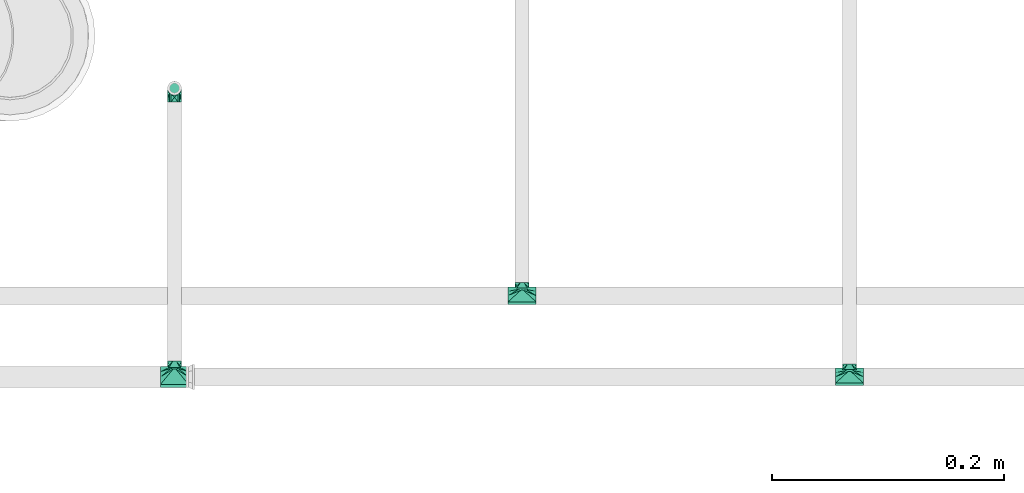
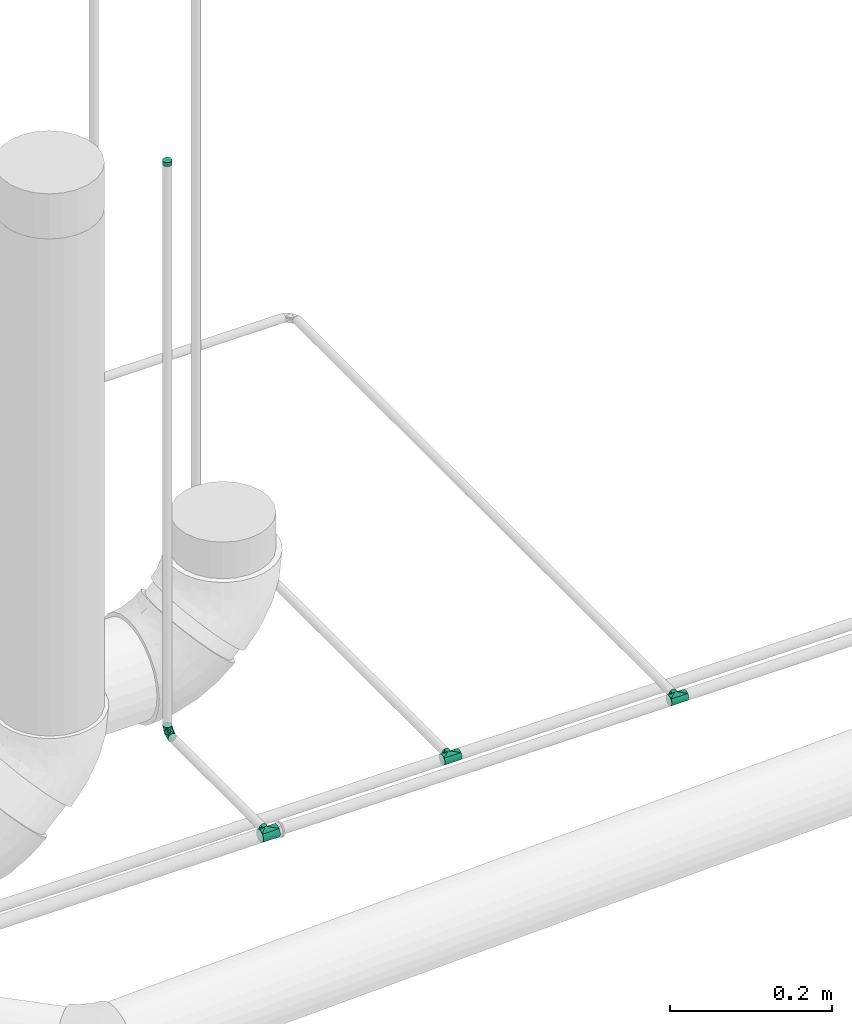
# One storey, part 86 of 156: 5 flow fittings.
"""IFC2X3 building model written with IfcOpenShell, lengths in millimetres."""

from ifc_helpers import new_model, entity, si_unit, converted_unit, derived_unit, direction, frame, origin_with_axes, place, context, subcontext, project, spatial, open_shell, surface_model, source, transform, mapped, type_object, element, save


model = new_model("IFC2X3")

# Units and contexts
model_context = context("Model", 3, precision=0.01, world=frame((0.0, 4.29681676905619e-09, 0.0)), true_north=direction((4.01073788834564e-13, 1.0)))
plan_context = context("Plan", 3, precision=0.01, world=frame((0.0, 4.29681676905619e-09, 0.0)), true_north=direction((4.01073788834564e-13, 1.0)))
body_context = subcontext(model_context, "Body", "Model", "MODEL_VIEW")
ifc_project = project(units=[converted_unit("PLANEANGLEUNIT", "DEGREE", entity("IfcPositiveLengthMeasure", 0.0174532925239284), si_unit("PLANEANGLEUNIT", "RADIAN"), dimensions=[0, 0, 0, 0, 0, 0, 0]), si_unit("AREAUNIT", "SQUARE_METRE"), si_unit("LENGTHUNIT", "METRE", prefix="MILLI"), si_unit("MASSUNIT", "GRAM", prefix="KILO"), si_unit("POWERUNIT", "WATT"), si_unit("PRESSUREUNIT", "PASCAL", prefix="KILO"), si_unit("FORCEUNIT", "NEWTON", prefix="KILO"), si_unit("ELECTRICVOLTAGEUNIT", "VOLT"), si_unit("ELECTRICCURRENTUNIT", "AMPERE"), si_unit("THERMODYNAMICTEMPERATUREUNIT", "DEGREE_CELSIUS"), si_unit("TIMEUNIT", "SECOND"), si_unit("VOLUMEUNIT", "CUBIC_METRE"), derived_unit("LINEARVELOCITYUNIT", [(si_unit("LENGTHUNIT", "METRE"), 1), (si_unit("TIMEUNIT", "SECOND"), -1)]), derived_unit("VOLUMETRICFLOWRATEUNIT", [(si_unit("VOLUMEUNIT", "CUBIC_METRE"), 1), (si_unit("TIMEUNIT", "SECOND"), -1)]), derived_unit("THERMALTRANSMITTANCEUNIT", [(si_unit("POWERUNIT", "WATT"), 1), (si_unit("THERMODYNAMICTEMPERATUREUNIT", "KELVIN"), -1), (si_unit("AREAUNIT", "SQUARE_METRE"), -1)]), derived_unit("SOUNDPRESSUREUNIT", [(si_unit("PRESSUREUNIT", "PASCAL"), 1)])], contexts=[model_context, plan_context])

# Site, building, storey
site_placement = place(None, frame((0.0, -4.29681676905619e-09, 0.0), z_axis=(0.0, 0.0, 1.0), x_axis=(1.0, 0.0, 0.0)))
site = spatial("IfcSite", under=ifc_project, at=site_placement, CompositionType="ELEMENT")
building_placement = place(site_placement, frame((0.0, 4.29681676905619e-09, 0.0), z_axis=(0.0, 0.0, 1.0), x_axis=(1.0, 0.0, 0.0)))
building = spatial("IfcBuilding", under=site, at=building_placement, Name="mc-building", CompositionType="ELEMENT")
storey_placement = place(building_placement, frame((0.0, 0.0, 205200.0), z_axis=(0.0, 0.0, 1.0), x_axis=(1.0, 0.0, 0.0)))
storey = spatial("IfcBuildingStorey", under=building, at=storey_placement, Name="Nivå D + 1,2 m", CompositionType="ELEMENT", Elevation=205200.0)

# Flow fittings
pipe_fitting_type_1 = type_object("IfcPipeFittingType", Name="magi_pipe_elbow_short_001", PredefinedType="BEND")
shared_shape_1 = source(origin_with_axes(), body_context, "Body", "SurfaceModel", [
    surface_model("IfcShellBasedSurfaceModel", [(-12.0, 0.0, -6.0), (-12.0, -5.19615, -3.0), (-12.0, 1.55291, -5.79555), (-12.0, 5.79555, -1.55291), (-12.0, -5.79555, -1.55291), (-12.0, -6.0, 0.0), (-12.0, -1.55291, 5.79555), (-12.0, 0.0, 6.0), (-12.0, -3.0, 5.19615), (-12.0, 3.0, -5.19615), (-12.0, 5.19615, -3.0), (-12.0, 4.24264, -4.24264), (-12.0, -3.0, -5.19615), (-12.0, -4.24264, -4.24264), (-12.0, -1.55291, -5.79555), (-12.0, 6.0, 0.0), (-12.0, -4.24264, 4.24264), (-12.0, 5.79555, 1.55291), (-12.0, 5.19615, 3.0), (-12.0, 4.24264, 4.24264), (-12.0, 1.55291, 5.79555), (-12.0, 3.0, 5.19615), (-12.0, -5.79555, 1.55291), (-12.0, -5.19615, 3.0), (-1.55291, 12.0, -5.79555), (5.19615, 12.0, -3.0), (0.0, 12.0, -6.0), (-5.79555, 12.0, -1.55291), (-3.0, 12.0, -5.19615), (-4.24264, 12.0, -4.24264), (-5.19615, 12.0, -3.0), (-1.55291, 12.0, 5.79555), (1.55291, 12.0, -5.79555), (4.24264, 12.0, -4.24264), (3.0, 12.0, -5.19615), (6.0, 12.0, 0.0), (5.79555, 12.0, -1.55291), (4.24264, 12.0, 4.24264), (-5.19615, 12.0, 3.0), (-5.79555, 12.0, 1.55291), (-4.24264, 12.0, 4.24264), (-3.0, 12.0, 5.19615), (5.19615, 12.0, 3.0), (5.79555, 12.0, 1.55291), (3.0, 12.0, 5.19615), (0.0, 12.0, 6.0), (1.55291, 12.0, 5.79555), (-6.0, 12.0, 0.0), (-2.67965, 2.67964, 5.88263), (-6.5981, -3.76246, 0.0), (0.72792, -0.72792, 0.0), (3.76246, 6.5981, 0.0), (-7.75736, 7.75736, 0.0), (-2.67964, 2.67964, -5.88263)], [open_shell([[[0, 1, 2]], [[3, 2, 1]], [[4, 5, 1]], [[6, 7, 8]], [[9, 2, 3]], [[3, 10, 11]], [[9, 3, 11]], [[12, 13, 14]], [[1, 14, 13]], [[0, 14, 1]], [[1, 5, 3]], [[5, 15, 3]], [[16, 17, 5]], [[18, 17, 19]], [[20, 21, 19]], [[17, 20, 19]], [[20, 17, 8]], [[5, 22, 23]], [[5, 23, 16]], [[17, 16, 8]], [[20, 8, 7]], [[17, 15, 5]], [[24, 25, 26]], [[27, 24, 28]], [[29, 30, 27]], [[29, 27, 28]], [[31, 25, 24]], [[32, 33, 34]], [[33, 32, 25]], [[25, 35, 36]], [[25, 32, 26]], [[25, 37, 35]], [[38, 24, 27]], [[27, 39, 38]], [[24, 38, 31]], [[40, 41, 31]], [[40, 31, 38]], [[37, 25, 31]], [[35, 42, 43]], [[37, 42, 35]], [[44, 45, 46]], [[44, 37, 31]], [[45, 44, 31]], [[27, 47, 39]], [[6, 48, 7]], [[23, 22, 49]], [[16, 23, 49]], [[22, 5, 49]], [[50, 51, 48]], [[8, 49, 48]], [[20, 7, 48]], [[8, 48, 6]], [[42, 51, 43]], [[16, 49, 8]], [[18, 19, 38]], [[48, 19, 21]], [[17, 18, 52]], [[52, 15, 17]], [[52, 18, 38]], [[21, 20, 48]], [[49, 50, 48]], [[44, 46, 48]], [[51, 44, 48]], [[46, 45, 48]], [[35, 43, 51]], [[44, 51, 37]], [[37, 51, 42]], [[38, 39, 52]], [[47, 52, 39]], [[41, 40, 48]], [[40, 19, 48]], [[38, 19, 40]], [[31, 41, 48]], [[45, 31, 48]], [[9, 53, 2]], [[2, 53, 0]], [[52, 10, 3]], [[50, 49, 53]], [[11, 29, 53]], [[1, 49, 4]], [[11, 10, 29]], [[9, 11, 53]], [[49, 5, 4]], [[1, 13, 49]], [[14, 53, 12]], [[49, 13, 12]], [[12, 53, 49]], [[0, 53, 14]], [[3, 15, 52]], [[52, 47, 27]], [[52, 27, 30]], [[29, 10, 30]], [[32, 53, 26]], [[53, 28, 24]], [[36, 35, 51]], [[53, 29, 28]], [[26, 53, 24]], [[53, 34, 51]], [[51, 34, 33]], [[25, 36, 51]], [[51, 50, 53]], [[51, 33, 25]], [[34, 53, 32]], [[30, 10, 52]]])]),
])
flow_fitting_1_placement = place(storey_placement, frame((328681.53073, 462562.63355, 4318.0), z_axis=(1.0, 0.0, 0.0), x_axis=(0.0, 1.0, 0.0)))
element("IfcFlowFitting", 1, at=flow_fitting_1_placement, inside=storey, type_object=pipe_fitting_type_1, Name="magi_pipe_elbow_short_001", context=body_context, shape_type="MappedRepresentation", body=[
    mapped(shared_shape_1, transform((0.0, 0.0, 0.0), scale=1.0)),
])
pipe_fitting_type_2 = type_object("IfcPipeFittingType", Name="magi_pipe_fe_plug_001", PredefinedType="OBSTRUCTION")
shared_shape_2 = source(origin_with_axes(), body_context, "Body", "SurfaceModel", [
    surface_model("IfcShellBasedSurfaceModel", [(0.0, 0.0, -6.0), (0.0, -5.19615, -3.0), (0.0, 1.55291, -5.79555), (0.0, 3.0, -5.19615), (0.0, 4.24264, -4.24264), (0.0, 5.79555, -1.55291), (0.0, 5.19615, -3.0), (0.0, -4.24264, -4.24264), (0.0, -3.0, -5.19615), (0.0, -1.55291, -5.79555), (0.0, -5.79555, -1.55291), (0.0, -6.0, 0.0), (0.0, -5.19615, 3.0), (0.0, 5.19615, 3.0), (0.0, 5.79555, 1.55291), (0.0, 6.0, 0.0), (0.0, 3.0, 5.19615), (0.0, 4.24264, 4.24264), (0.0, 0.0, 6.0), (0.0, 1.55291, 5.79555), (0.0, -4.24264, 4.24264), (0.0, -3.0, 5.19615), (0.0, -5.79555, 1.55291), (0.0, -1.55291, 5.79555), (6.0, 1.55291, -5.79555), (6.0, -5.19615, -3.0), (6.0, 0.0, -6.0), (6.0, 4.24264, -4.24264), (6.0, 3.0, -5.19615), (6.0, 5.19615, -3.0), (6.0, 5.79555, -1.55291), (6.0, 5.19615, 3.0), (6.0, -6.0, 0.0), (6.0, -3.0, -5.19615), (6.0, -4.24264, -4.24264), (6.0, -1.55291, -5.79555), (6.0, -5.79555, -1.55291), (6.0, 6.0, 0.0), (6.0, 5.79555, 1.55291), (6.0, -5.19615, 3.0), (6.0, 3.0, 5.19615), (6.0, 4.24264, 4.24264), (6.0, 0.0, 6.0), (6.0, 1.55291, 5.79555), (6.0, -3.0, 5.19615), (6.0, -4.24264, 4.24264), (6.0, -5.79555, 1.55291), (6.0, -1.55291, 5.79555)], [open_shell([[[0, 1, 2]], [[3, 2, 4]], [[2, 5, 6]], [[4, 2, 6]], [[5, 2, 1]], [[7, 1, 8]], [[0, 9, 8]], [[10, 11, 1]], [[1, 0, 8]], [[11, 12, 1]], [[12, 5, 1]], [[13, 14, 15]], [[5, 12, 13]], [[12, 16, 13]], [[17, 13, 16]], [[16, 18, 19]], [[20, 21, 12]], [[12, 11, 22]], [[23, 18, 21]], [[16, 12, 21]], [[16, 21, 18]], [[15, 5, 13]], [[24, 25, 26]], [[27, 24, 28]], [[29, 30, 24]], [[29, 24, 27]], [[31, 32, 24]], [[33, 25, 34]], [[33, 35, 26]], [[25, 32, 36]], [[33, 26, 25]], [[24, 32, 25]], [[24, 30, 37]], [[37, 38, 31]], [[31, 39, 32]], [[39, 31, 40]], [[40, 31, 41]], [[42, 40, 43]], [[39, 44, 45]], [[46, 32, 39]], [[44, 42, 47]], [[44, 39, 40]], [[42, 44, 40]], [[31, 24, 37]], [[46, 11, 32]], [[39, 22, 46]], [[20, 45, 44]], [[39, 45, 12]], [[21, 44, 47]], [[39, 12, 22]], [[22, 11, 46]], [[23, 42, 18]], [[23, 21, 47]], [[20, 44, 21]], [[20, 12, 45]], [[42, 23, 47]], [[40, 19, 43]], [[41, 16, 40]], [[13, 31, 38]], [[41, 31, 17]], [[14, 38, 37]], [[40, 16, 19]], [[19, 18, 43]], [[14, 13, 38]], [[17, 31, 13]], [[17, 16, 41]], [[15, 14, 37]], [[43, 18, 42]], [[30, 15, 37]], [[29, 5, 30]], [[4, 27, 28]], [[29, 27, 6]], [[3, 28, 24]], [[29, 6, 5]], [[5, 15, 30]], [[2, 26, 0]], [[2, 3, 24]], [[4, 28, 3]], [[4, 6, 27]], [[26, 2, 24]], [[33, 9, 35]], [[34, 8, 33]], [[1, 25, 36]], [[34, 25, 7]], [[10, 36, 32]], [[33, 8, 9]], [[9, 0, 35]], [[10, 1, 36]], [[7, 25, 1]], [[7, 8, 34]], [[11, 10, 32]], [[35, 0, 26]]])]),
])
flow_fitting_2_placement = place(storey_placement, frame((328681.53073, 462562.63355, 5174.0), z_axis=(0.0, 1.0, 0.0), x_axis=(0.0, 0.0, 1.0)))
element("IfcFlowFitting", 2, at=flow_fitting_2_placement, inside=storey, type_object=pipe_fitting_type_2, Name="magi_pipe_fe_plug_001", context=body_context, shape_type="MappedRepresentation", body=[
    mapped(shared_shape_2, transform((0.0, 0.0, 0.0), scale=1.0)),
])
pipe_fitting_type_3 = type_object("IfcPipeFittingType", Name="magi_pipe_tee_centric_90_001", PredefinedType="JUNCTION")
shared_shape_3 = source(origin_with_axes(), body_context, "Body", "SurfaceModel", [
    surface_model("IfcShellBasedSurfaceModel", [(-12.0, 3.75, -6.49519), (-12.0, 1.94114, -7.24444), (-12.0, 0.0, -7.5), (-12.0, -7.5, 0.0), (-12.0, 6.49519, -3.75), (-12.0, 5.3033, -5.3033), (-12.0, -7.24444, 1.94114), (-12.0, -5.3033, -5.3033), (-12.0, -3.75, -6.49519), (-12.0, -1.94114, -7.24444), (-12.0, -6.49519, -3.75), (-12.0, -7.24444, -1.94114), (-12.0, 7.24444, -1.94114), (-12.0, 6.49519, 3.75), (-12.0, 7.24444, 1.94114), (-12.0, 7.5, 0.0), (-12.0, 3.75, 6.49519), (-12.0, 5.3033, 5.3033), (-12.0, 1.94114, 7.24444), (-12.0, 0.0, 7.5), (-12.0, -6.49519, 3.75), (-12.0, -5.3033, 5.3033), (-12.0, -1.94114, 7.24444), (-12.0, -3.75, 6.49519), (12.0, 0.0, -7.5), (12.0, 1.94114, -7.24444), (12.0, 3.75, -6.49519), (12.0, -7.24444, 1.94114), (12.0, -7.5, 0.0), (12.0, 6.49519, -3.75), (12.0, 5.3033, -5.3033), (12.0, 6.49519, 3.75), (12.0, -5.3033, -5.3033), (12.0, -3.75, -6.49519), (12.0, -1.94114, -7.24444), (12.0, -7.24444, -1.94114), (12.0, -6.49519, -3.75), (12.0, 7.24444, -1.94114), (12.0, 7.5, 0.0), (12.0, 7.24444, 1.94114), (12.0, 3.75, 6.49519), (12.0, 5.3033, 5.3033), (12.0, 0.0, 7.5), (12.0, 1.94114, 7.24444), (12.0, -5.3033, 5.3033), (12.0, -6.49519, 3.75), (12.0, -3.75, 6.49519), (12.0, -1.94114, 7.24444), (6.0, -7.5, 0.0), (5.60417, -7.18726, 2.1432), (4.54835, -6.39824, 3.91312), (3.02634, -5.42298, 5.18086), (1.0938, -4.63103, 5.89946), (-6.0, -7.5, 0.0), (-5.60439, -7.18743, 2.14262), (-4.54926, -6.39889, 3.91206), (-3.02678, -5.42323, 5.1806), (-1.09572, -4.63148, 5.8991), (1.0938, -4.63103, -5.89946), (3.02634, -5.42298, -5.18086), (-3.02678, -5.42323, -5.1806), (-1.09572, -4.63148, -5.8991), (4.54835, -6.39824, -3.91312), (5.60417, -7.18726, -2.1432), (-4.54926, -6.39889, -3.91206), (-5.60439, -7.18743, -2.14262), (1.55291, -11.25, -5.79555), (-6.0, -11.25, 0.0), (0.0, -11.25, -6.0), (5.19615, -11.25, -3.0), (3.0, -11.25, -5.19615), (5.79555, -11.25, -1.55291), (4.24264, -11.25, -4.24264), (-4.24264, -11.25, 4.24264), (-3.0, -11.25, -5.19615), (-5.19615, -11.25, -3.0), (-4.24264, -11.25, -4.24264), (-1.55291, -11.25, -5.79555), (-5.79555, -11.25, -1.55291), (5.19615, -11.25, 3.0), (6.0, -11.25, 0.0), (5.79555, -11.25, 1.55291), (-3.0, -11.25, 5.19615), (3.0, -11.25, 5.19615), (4.24264, -11.25, 4.24264), (0.0, -11.25, 6.0), (1.55291, -11.25, 5.79555), (-5.79555, -11.25, 1.55291), (-5.19615, -11.25, 3.0), (-1.55291, -11.25, 5.79555)], [open_shell([[[0, 1, 2]], [[0, 2, 3]], [[4, 0, 3]], [[5, 0, 4]], [[4, 3, 6]], [[7, 3, 8]], [[2, 9, 8]], [[10, 11, 7]], [[3, 7, 11]], [[8, 3, 2]], [[6, 12, 4]], [[13, 14, 15]], [[16, 13, 15]], [[12, 6, 16]], [[17, 13, 16]], [[18, 16, 19]], [[20, 21, 6]], [[19, 6, 21]], [[22, 19, 23]], [[21, 23, 19]], [[19, 16, 6]], [[15, 12, 16]], [[24, 25, 26]], [[27, 28, 24]], [[26, 27, 24]], [[29, 26, 30]], [[29, 31, 26]], [[24, 32, 33]], [[33, 34, 24]], [[32, 35, 36]], [[35, 32, 28]], [[28, 32, 24]], [[29, 37, 38]], [[38, 39, 31]], [[31, 40, 26]], [[26, 40, 27]], [[40, 31, 41]], [[42, 40, 43]], [[27, 44, 45]], [[44, 27, 42]], [[46, 42, 47]], [[42, 46, 44]], [[27, 40, 42]], [[31, 29, 38]], [[28, 27, 48]], [[49, 48, 27]], [[27, 45, 49]], [[45, 44, 50]], [[46, 51, 50]], [[42, 52, 51]], [[46, 50, 44]], [[45, 50, 49]], [[53, 54, 6]], [[6, 3, 53]], [[54, 20, 6]], [[23, 55, 56]], [[20, 55, 21]], [[55, 20, 54]], [[23, 21, 55]], [[56, 57, 19]], [[52, 17, 57]], [[47, 42, 51]], [[43, 52, 42]], [[52, 43, 40]], [[41, 17, 52]], [[13, 31, 39]], [[41, 31, 17]], [[52, 40, 41]], [[14, 39, 38]], [[19, 57, 18]], [[22, 56, 19]], [[23, 56, 22]], [[14, 13, 39]], [[16, 57, 17]], [[31, 13, 17]], [[18, 57, 16]], [[38, 15, 14]], [[47, 51, 46]], [[37, 15, 38]], [[12, 37, 29]], [[29, 30, 4]], [[30, 26, 58]], [[25, 24, 58]], [[25, 58, 26]], [[5, 30, 58]], [[24, 34, 59]], [[5, 4, 30]], [[4, 12, 29]], [[12, 15, 37]], [[60, 9, 2]], [[61, 1, 0]], [[1, 61, 2]], [[61, 0, 5]], [[9, 60, 8]], [[59, 34, 33]], [[62, 59, 33]], [[62, 32, 36]], [[58, 24, 59]], [[33, 32, 62]], [[36, 35, 63]], [[35, 48, 63]], [[48, 35, 28]], [[36, 63, 62]], [[64, 8, 60]], [[7, 64, 10]], [[7, 8, 64]], [[60, 2, 61]], [[65, 53, 11]], [[65, 11, 10]], [[11, 53, 3]], [[65, 10, 64]], [[58, 61, 5]], [[66, 67, 68]], [[69, 66, 70]], [[69, 71, 66]], [[69, 70, 72]], [[73, 67, 66]], [[74, 75, 76]], [[75, 74, 77]], [[75, 67, 78]], [[75, 77, 68]], [[68, 67, 75]], [[66, 71, 79]], [[80, 81, 79]], [[79, 73, 66]], [[82, 79, 83]], [[83, 79, 84]], [[85, 83, 86]], [[87, 73, 88]], [[67, 73, 87]], [[82, 85, 89]], [[82, 73, 79]], [[85, 82, 83]], [[79, 71, 80]], [[53, 67, 87]], [[54, 88, 73]], [[87, 88, 53]], [[73, 82, 54]], [[53, 88, 54]], [[55, 54, 89]], [[57, 56, 51]], [[55, 50, 56]], [[89, 85, 55]], [[82, 89, 54]], [[86, 50, 85]], [[83, 49, 86]], [[49, 84, 79]], [[83, 84, 49]], [[48, 79, 81]], [[51, 52, 57]], [[50, 51, 56]], [[79, 48, 49]], [[49, 50, 86]], [[48, 81, 80]], [[55, 85, 50]], [[48, 80, 71]], [[63, 69, 72]], [[71, 69, 48]], [[72, 70, 63]], [[48, 69, 63]], [[62, 63, 66]], [[58, 59, 61]], [[62, 60, 59]], [[66, 68, 62]], [[70, 66, 63]], [[77, 64, 68]], [[74, 65, 77]], [[65, 76, 75]], [[74, 76, 65]], [[53, 75, 78]], [[60, 61, 59]], [[64, 60, 62]], [[75, 53, 65]], [[65, 64, 77]], [[53, 78, 67]], [[62, 68, 64]]])]),
])
for number, where, z_axis, x_axis, name in (
    (3, (328981.34469, 462383.7286, 4285.29996), (0.0, 0.0, 1.0), (-1.0, 0.0, 0.0), "magi_pipe_tee_centric_90_001"),
    (4, (329263.73717, 462313.63355, 4318.0), (0.0, 0.0, 1.0), (-1.0, 0.0, 0.0), "magi_pipe_tee_centric_90_001"),
):
    element("IfcFlowFitting", number, at=place(storey_placement, frame(where, z_axis=z_axis, x_axis=x_axis)), inside=storey, type_object=pipe_fitting_type_3, Name=name, context=body_context, shape_type="MappedRepresentation", body=[
        mapped(shared_shape_3, transform((0.0, 0.0, 0.0), scale=1.0)),
    ])
shared_shape_4 = source(origin_with_axes(), body_context, "Body", "SurfaceModel", [
    surface_model("IfcShellBasedSurfaceModel", [(-12.0, 4.5, -7.79423), (-12.0, 2.32937, -8.69333), (-12.0, 0.0, -9.0), (-12.0, -2.32937, -8.69333), (-12.0, 7.79423, -4.5), (-12.0, 6.36396, -6.36396), (-12.0, 8.69333, -2.32937), (-12.0, -4.5, -7.79423), (-12.0, -6.36396, -6.36396), (-12.0, -7.79423, -4.5), (-12.0, -8.69333, -2.32937), (-12.0, -9.0, 0.0), (-12.0, -4.5, 7.79423), (-12.0, 8.69333, 2.32937), (-12.0, 9.0, 0.0), (-12.0, 2.32937, 8.69333), (-12.0, 7.79423, 4.5), (-12.0, 4.5, 7.79423), (-12.0, 6.36396, 6.36396), (-12.0, 0.0, 9.0), (-12.0, -6.36396, 6.36396), (-12.0, -7.79423, 4.5), (-12.0, -8.69333, 2.32937), (-12.0, -2.32937, 8.69333), (12.0, 0.0, -9.0), (12.0, 2.32937, -8.69333), (12.0, 4.5, -7.79423), (12.0, -9.0, 0.0), (12.0, -4.5, 7.79423), (12.0, 7.79423, -4.5), (12.0, 6.36396, -6.36396), (12.0, 8.69333, 2.32937), (12.0, -4.5, -7.79423), (12.0, -2.32937, -8.69333), (12.0, -6.36396, -6.36396), (12.0, -8.69333, -2.32937), (12.0, -7.79423, -4.5), (12.0, 8.69333, -2.32937), (12.0, 9.0, 0.0), (12.0, 2.32937, 8.69333), (12.0, 7.79423, 4.5), (12.0, 4.5, 7.79423), (12.0, 6.36396, 6.36396), (12.0, -7.79423, 4.5), (12.0, -6.36396, 6.36396), (12.0, -8.69333, 2.32937), (12.0, 0.0, 9.0), (12.0, -2.32937, 8.69333), (6.0, -9.0, 0.0), (5.61867, -8.7504, 2.10489), (4.5736, -8.11898, 3.88358), (3.02659, -7.35937, 5.18071), (1.07353, -6.79356, 5.90318), (-1.07534, -6.79385, 5.90285), (-6.0, -9.0, 0.0), (-5.61888, -8.75053, 2.10432), (-4.57488, -8.1197, 3.88207), (-3.02712, -7.35958, 5.1804), (1.07353, -6.79356, -5.90318), (3.02659, -7.35937, -5.18071), (-3.02712, -7.35958, -5.1804), (-1.07534, -6.79385, -5.90285), (4.5736, -8.11898, -3.88358), (5.61867, -8.7504, -2.10489), (-4.57488, -8.1197, -3.88207), (-5.61888, -8.75053, -2.10432), (1.55291, -13.5, -5.79555), (-6.0, -13.5, 0.0), (0.0, -13.5, -6.0), (5.19615, -13.5, -3.0), (3.0, -13.5, -5.19615), (5.79555, -13.5, -1.55291), (4.24264, -13.5, -4.24264), (-4.24264, -13.5, 4.24264), (-3.0, -13.5, -5.19615), (-5.19615, -13.5, -3.0), (-4.24264, -13.5, -4.24264), (-1.55291, -13.5, -5.79555), (-5.79555, -13.5, -1.55291), (5.19615, -13.5, 3.0), (6.0, -13.5, 0.0), (5.79555, -13.5, 1.55291), (-3.0, -13.5, 5.19615), (3.0, -13.5, 5.19615), (4.24264, -13.5, 4.24264), (0.0, -13.5, 6.0), (1.55291, -13.5, 5.79555), (-5.79555, -13.5, 1.55291), (-5.19615, -13.5, 3.0), (-1.55291, -13.5, 5.79555)], [open_shell([[[0, 1, 2]], [[0, 2, 3]], [[3, 4, 0]], [[5, 0, 4]], [[4, 3, 6]], [[7, 8, 3]], [[8, 6, 3]], [[9, 10, 8]], [[11, 8, 10]], [[8, 11, 6]], [[11, 12, 6]], [[13, 14, 15]], [[16, 13, 15]], [[16, 15, 17]], [[18, 16, 17]], [[19, 15, 14]], [[20, 12, 21]], [[11, 22, 21]], [[23, 19, 12]], [[21, 12, 11]], [[12, 19, 14]], [[14, 6, 12]], [[24, 25, 26]], [[27, 24, 26]], [[27, 26, 28]], [[29, 26, 30]], [[26, 29, 31]], [[24, 32, 33]], [[24, 34, 32]], [[34, 35, 36]], [[35, 34, 27]], [[24, 27, 34]], [[29, 37, 38]], [[28, 26, 31]], [[39, 31, 40]], [[41, 39, 40]], [[41, 40, 42]], [[28, 31, 39]], [[43, 28, 44]], [[43, 45, 27]], [[28, 46, 47]], [[27, 28, 43]], [[39, 46, 28]], [[29, 38, 31]], [[27, 45, 48]], [[49, 48, 45]], [[45, 43, 49]], [[43, 44, 50]], [[28, 51, 50]], [[46, 52, 51]], [[53, 52, 18]], [[43, 50, 49]], [[54, 55, 22]], [[22, 11, 54]], [[55, 21, 22]], [[12, 56, 57]], [[56, 20, 21]], [[12, 20, 56]], [[56, 21, 55]], [[19, 57, 53]], [[44, 28, 50]], [[47, 46, 51]], [[39, 52, 46]], [[52, 39, 41]], [[42, 18, 52]], [[16, 40, 31]], [[42, 40, 18]], [[52, 41, 42]], [[13, 31, 38]], [[19, 53, 15]], [[23, 57, 19]], [[12, 57, 23]], [[13, 16, 31]], [[17, 53, 18]], [[40, 16, 18]], [[15, 53, 17]], [[38, 14, 13]], [[47, 51, 28]], [[37, 14, 38]], [[6, 37, 29]], [[29, 30, 4]], [[30, 26, 58]], [[25, 24, 58]], [[25, 58, 26]], [[5, 30, 58]], [[24, 33, 59]], [[5, 4, 30]], [[4, 6, 29]], [[6, 14, 37]], [[60, 3, 2]], [[61, 1, 0]], [[1, 61, 2]], [[61, 0, 5]], [[3, 60, 7]], [[59, 33, 32]], [[32, 62, 59]], [[58, 24, 59]], [[34, 36, 62]], [[61, 5, 58]], [[35, 27, 48]], [[62, 36, 63]], [[48, 63, 35]], [[63, 36, 35]], [[64, 7, 60]], [[64, 9, 8]], [[7, 64, 8]], [[2, 61, 60]], [[65, 10, 9]], [[10, 54, 11]], [[54, 10, 65]], [[65, 9, 64]], [[34, 62, 32]], [[66, 67, 68]], [[69, 66, 70]], [[69, 71, 66]], [[69, 70, 72]], [[73, 67, 66]], [[74, 75, 76]], [[75, 74, 77]], [[75, 67, 78]], [[75, 77, 68]], [[68, 67, 75]], [[66, 71, 79]], [[80, 81, 79]], [[79, 73, 66]], [[82, 79, 83]], [[83, 79, 84]], [[85, 83, 86]], [[87, 73, 88]], [[67, 73, 87]], [[82, 85, 89]], [[82, 73, 79]], [[85, 82, 83]], [[79, 71, 80]], [[54, 67, 87]], [[55, 88, 73]], [[87, 88, 54]], [[73, 82, 55]], [[54, 88, 55]], [[56, 55, 89]], [[53, 57, 51]], [[56, 50, 57]], [[89, 85, 56]], [[82, 89, 55]], [[86, 50, 85]], [[83, 49, 86]], [[49, 84, 79]], [[83, 84, 49]], [[48, 79, 81]], [[51, 52, 53]], [[50, 51, 57]], [[79, 48, 49]], [[49, 50, 86]], [[48, 81, 80]], [[56, 85, 50]], [[48, 80, 71]], [[63, 69, 72]], [[71, 69, 48]], [[72, 70, 63]], [[48, 69, 63]], [[62, 63, 66]], [[58, 59, 61]], [[62, 60, 59]], [[66, 68, 62]], [[70, 66, 63]], [[77, 64, 68]], [[74, 65, 77]], [[65, 76, 75]], [[74, 76, 65]], [[54, 75, 78]], [[60, 61, 59]], [[64, 60, 62]], [[75, 54, 65]], [[65, 64, 77]], [[54, 78, 67]], [[62, 68, 64]]])]),
])
flow_fitting_3_placement = place(storey_placement, frame((328681.53073, 462313.63355, 4318.0), z_axis=(0.0, 0.0, 1.0), x_axis=(-1.0, 0.0, 0.0)))
element("IfcFlowFitting", 5, at=flow_fitting_3_placement, inside=storey, type_object=pipe_fitting_type_3, Name="magi_pipe_tee_centric_90_001", context=body_context, shape_type="MappedRepresentation", body=[
    mapped(shared_shape_4, transform((0.0, 0.0, 0.0), scale=1.0)),
])

save(model, "model.ifc")
